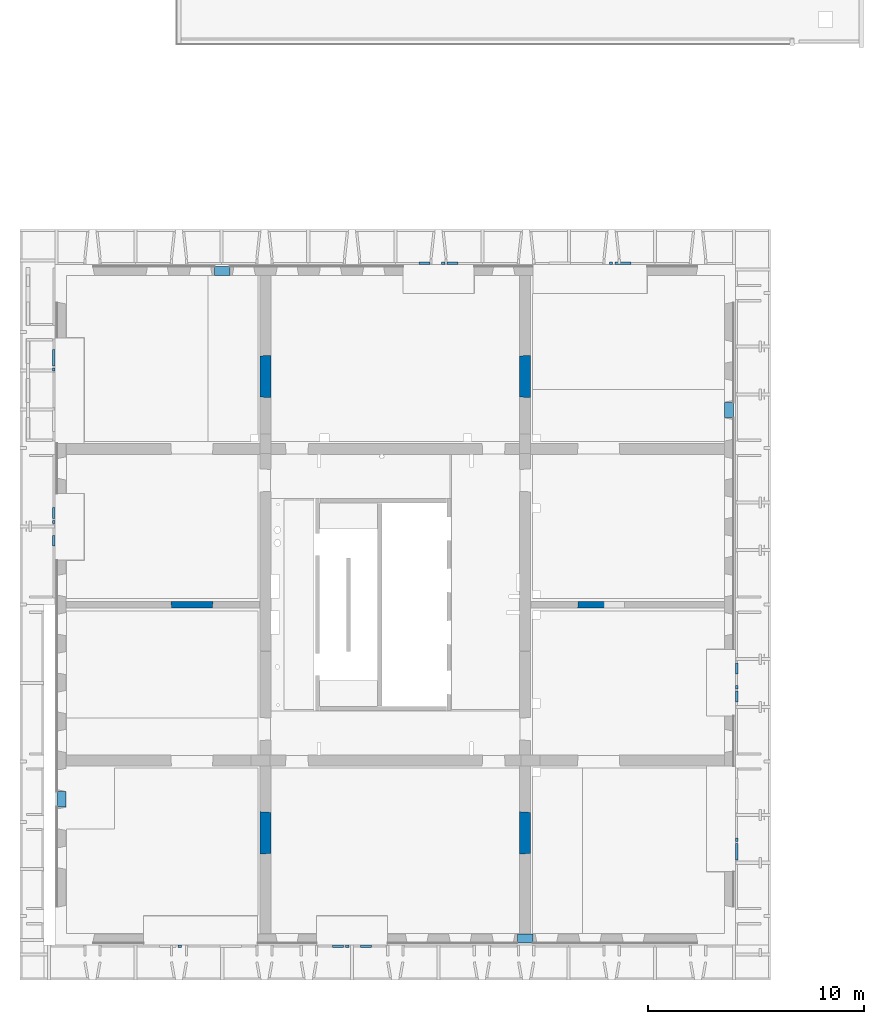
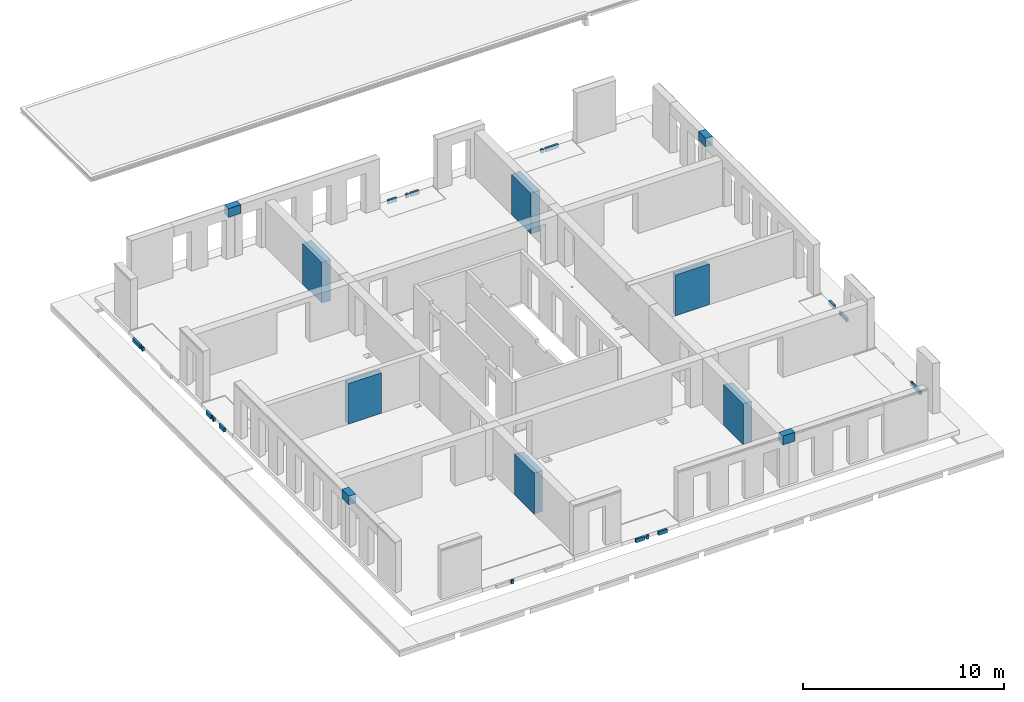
# One storey, part 24 of 27: 29 walls.
"""IFC2X3 building model written with IfcOpenShell, lengths in millimetres."""

from ifc_helpers import new_model, entity, si_unit, converted_unit, derived_unit, direction, frame, frame_2d, origin, place, context, subcontext, project, spatial, rectangle, extrude, faceted_brep, material, layer, layer_set, layer_usage, type_object, element, save


model = new_model("IFC2X3")

# Units and contexts
model_context = context("Model", 3, precision=0.01, world=origin(), true_north=direction((6.12303176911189e-17, 1.0)))
body_context = subcontext(model_context, "Body", "Model", "MODEL_VIEW")
ifc_project = project(units=[si_unit("LENGTHUNIT", "METRE", prefix="MILLI"), si_unit("AREAUNIT", "SQUARE_METRE"), si_unit("VOLUMEUNIT", "CUBIC_METRE"), converted_unit("PLANEANGLEUNIT", "DEGREE", entity("IfcRatioMeasure", 0.0174532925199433), si_unit("PLANEANGLEUNIT", "RADIAN"), dimensions=[0, 0, 0, 0, 0, 0, 0]), si_unit("MASSUNIT", "GRAM", prefix="KILO"), derived_unit("MASSDENSITYUNIT", [(si_unit("MASSUNIT", "GRAM", prefix="KILO"), 1), (si_unit("LENGTHUNIT", "METRE"), -3)]), si_unit("TIMEUNIT", "SECOND"), si_unit("FREQUENCYUNIT", "HERTZ"), si_unit("THERMODYNAMICTEMPERATUREUNIT", "DEGREE_CELSIUS"), derived_unit("THERMALTRANSMITTANCEUNIT", [(si_unit("MASSUNIT", "GRAM", prefix="KILO"), 1), (si_unit("THERMODYNAMICTEMPERATUREUNIT", "KELVIN"), -1), (si_unit("TIMEUNIT", "SECOND"), -3)]), derived_unit("VOLUMETRICFLOWRATEUNIT", [(si_unit("LENGTHUNIT", "METRE"), 3), (si_unit("TIMEUNIT", "SECOND"), -1)]), si_unit("ELECTRICCURRENTUNIT", "AMPERE"), si_unit("ELECTRICVOLTAGEUNIT", "VOLT"), si_unit("POWERUNIT", "WATT"), si_unit("FORCEUNIT", "NEWTON", prefix="KILO"), si_unit("ILLUMINANCEUNIT", "LUX"), si_unit("LUMINOUSFLUXUNIT", "LUMEN"), si_unit("LUMINOUSINTENSITYUNIT", "CANDELA"), derived_unit("USERDEFINED", [(si_unit("MASSUNIT", "GRAM", prefix="KILO"), -1), (si_unit("LENGTHUNIT", "METRE"), -2), (si_unit("TIMEUNIT", "SECOND"), 3), (si_unit("LUMINOUSFLUXUNIT", "LUMEN"), 1)]), derived_unit("LINEARVELOCITYUNIT", [(si_unit("LENGTHUNIT", "METRE"), 1), (si_unit("TIMEUNIT", "SECOND"), -1)]), si_unit("PRESSUREUNIT", "PASCAL"), derived_unit("USERDEFINED", [(si_unit("LENGTHUNIT", "METRE"), -2), (si_unit("MASSUNIT", "GRAM", prefix="KILO"), 1), (si_unit("TIMEUNIT", "SECOND"), -2)])], contexts=[model_context])

# Site, building, storey
site_placement = place(None, origin())
site = spatial("IfcSite", under=ifc_project, at=site_placement, Name="Default", CompositionType="ELEMENT")
building_placement = place(site_placement, origin())
building = spatial("IfcBuilding", under=site, at=building_placement, Name="niet gebruiken", CompositionType="ELEMENT")
storey_placement = place(building_placement, frame((0.0, 0.0, 18000.0)))
storey = spatial("IfcBuildingStorey", under=building, at=storey_placement, Name="05 vijfde verdieping", CompositionType="ELEMENT", Elevation=18000.0)

# Walls
ifc_material_1 = material(Name="NLRS_a_isolatie")
ifc_layer_1 = layer(ifc_material_1, 120.0)
ifc_layer_set_1 = layer_set([ifc_layer_1], Name="Basic Wall:NLRS_21.10_WA_isokorf d=120_gen")
ifc_layer_usage_1 = layer_usage(ifc_layer_set_1, "AXIS2", "NEGATIVE", 60.0)
wall_type_1 = type_object("IfcWallType", Name="Basic Wall:NLRS_21.10_WA_isokorf d=120_gen", PredefinedType="STANDARD", material=ifc_layer_set_1)
wall_1_placement = place(storey_placement, frame((144145.0, 33290.0, -360.0)))
element("IfcWallStandardCase", 1, at=wall_1_placement, inside=storey, type_object=wall_type_1, material=ifc_layer_usage_1, Name="Basic Wall:NLRS_21.10_WA_isokorf d=120_gen", ObjectType="Basic Wall:NLRS_21.10_WA_isokorf d=120_gen", context=body_context, shape_type="SweptSolid", body=[
    extrude(rectangle(XDim=500.000000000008, YDim=119.999999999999, at=frame_2d((250.000000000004, 8.45545855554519e-13), x_axis=(-1.0, 0.0))), origin(), (0.0, 0.0, 1.0), 220.000000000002),
])
ifc_layer_usage_2 = layer_usage(ifc_layer_set_1, "AXIS2", "NEGATIVE", 60.0)
wall_2_placement = place(storey_placement, frame((142855.0, 33290.0, -360.0)))
element("IfcWallStandardCase", 2, at=wall_2_placement, inside=storey, type_object=wall_type_1, material=ifc_layer_usage_2, Name="Basic Wall:NLRS_21.10_WA_isokorf d=120_gen", ObjectType="Basic Wall:NLRS_21.10_WA_isokorf d=120_gen", context=body_context, shape_type="SweptSolid", body=[
    extrude(rectangle(XDim=500.000000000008, YDim=119.999999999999, at=frame_2d((250.000000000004, 8.45545855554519e-13), x_axis=(-1.0, 0.0))), origin(), (0.0, 0.0, 1.0), 220.000000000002),
])
ifc_layer_usage_3 = layer_usage(ifc_layer_set_1, "AXIS2", "NEGATIVE", 60.0)
wall_3_placement = place(storey_placement, frame((125960.0, 28545.0, -360.0), z_axis=(0.0, 0.0, 1.0), x_axis=(0.0, 1.0, 0.0)))
element("IfcWallStandardCase", 3, at=wall_3_placement, inside=storey, type_object=wall_type_1, material=ifc_layer_usage_3, Name="Basic Wall:NLRS_21.10_WA_isokorf d=120_gen", ObjectType="Basic Wall:NLRS_21.10_WA_isokorf d=120_gen", context=body_context, shape_type="SweptSolid", body=[
    extrude(rectangle(XDim=750.000000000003, YDim=120.000000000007, at=frame_2d((374.999999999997, -8.06466005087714e-13), x_axis=(-1.0, 0.0))), origin(), (0.0, 0.0, 1.0), 220.000000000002),
])
ifc_layer_usage_4 = layer_usage(ifc_layer_set_1, "AXIS2", "NEGATIVE", 60.0)
wall_4_placement = place(storey_placement, frame((125960.0, 21495.0, -360.0), z_axis=(0.0, 0.0, 1.0), x_axis=(0.0, 1.0, 0.0)))
element("IfcWallStandardCase", 4, at=wall_4_placement, inside=storey, type_object=wall_type_1, material=ifc_layer_usage_4, Name="Basic Wall:NLRS_21.10_WA_isokorf d=120_gen", ObjectType="Basic Wall:NLRS_21.10_WA_isokorf d=120_gen", context=body_context, shape_type="SweptSolid", body=[
    extrude(rectangle(XDim=500.000000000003, YDim=120.000000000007, at=frame_2d((249.999999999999, -3.42836870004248e-12), x_axis=(-1.0, 0.0))), origin(), (0.0, 0.0, 1.0), 220.000000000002),
])
ifc_layer_usage_5 = layer_usage(ifc_layer_set_1, "AXIS2", "NEGATIVE", 60.0)
wall_5_placement = place(storey_placement, frame((125960.0, 20205.0, -360.0), z_axis=(0.0, 0.0, 1.0), x_axis=(0.0, 1.0, 0.0)))
element("IfcWallStandardCase", 5, at=wall_5_placement, inside=storey, type_object=wall_type_1, material=ifc_layer_usage_5, Name="Basic Wall:NLRS_21.10_WA_isokorf d=120_gen", ObjectType="Basic Wall:NLRS_21.10_WA_isokorf d=120_gen", context=body_context, shape_type="SweptSolid", body=[
    extrude(rectangle(XDim=499.999999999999, YDim=120.000000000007, at=frame_2d((249.999999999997, -3.42836870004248e-12), x_axis=(-1.0, 0.0))), origin(), (0.0, 0.0, 1.0), 220.000000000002),
])
ifc_layer_usage_6 = layer_usage(ifc_layer_set_1, "AXIS2", "NEGATIVE", 60.0)
wall_6_placement = place(storey_placement, frame((157540.0, 6455.00516263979, -360.0), z_axis=(0.0, 0.0, 1.0), x_axis=(0.0, -1.0, 0.0)))
element("IfcWallStandardCase", 6, at=wall_6_placement, inside=storey, type_object=wall_type_1, material=ifc_layer_usage_6, Name="Basic Wall:NLRS_21.10_WA_isokorf d=120_gen", ObjectType="Basic Wall:NLRS_21.10_WA_isokorf d=120_gen", context=body_context, shape_type="SweptSolid", body=[
    extrude(rectangle(XDim=750.000000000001, YDim=119.999999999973, at=frame_2d((375.0, 0.0), x_axis=(-1.0, 0.0))), origin(), (0.0, 0.0, 1.0), 220.000000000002),
])
ifc_layer_usage_7 = layer_usage(ifc_layer_set_1, "AXIS2", "NEGATIVE", 60.0)
wall_7_placement = place(storey_placement, frame((157540.0, 13505.0051626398, -360.0), z_axis=(0.0, 0.0, 1.0), x_axis=(0.0, -1.0, 0.0)))
element("IfcWallStandardCase", 7, at=wall_7_placement, inside=storey, type_object=wall_type_1, material=ifc_layer_usage_7, Name="Basic Wall:NLRS_21.10_WA_isokorf d=120_gen", ObjectType="Basic Wall:NLRS_21.10_WA_isokorf d=120_gen", context=body_context, shape_type="SweptSolid", body=[
    extrude(rectangle(XDim=500.000000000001, YDim=119.999999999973, at=frame_2d((250.000000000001, 0.0), x_axis=(-1.0, 0.0))), origin(), (0.0, 0.0, 1.0), 220.000000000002),
])
ifc_layer_usage_8 = layer_usage(ifc_layer_set_1, "AXIS2", "NEGATIVE", 60.0)
wall_8_placement = place(storey_placement, frame((157540.0, 14795.0051626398, -360.0), z_axis=(0.0, 0.0, 1.0), x_axis=(0.0, -1.0, 0.0)))
element("IfcWallStandardCase", 8, at=wall_8_placement, inside=storey, type_object=wall_type_1, material=ifc_layer_usage_8, Name="Basic Wall:NLRS_21.10_WA_isokorf d=120_gen", ObjectType="Basic Wall:NLRS_21.10_WA_isokorf d=120_gen", context=body_context, shape_type="SweptSolid", body=[
    extrude(rectangle(XDim=500.000000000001, YDim=119.999999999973, at=frame_2d((250.000000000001, 0.0), x_axis=(-1.0, 0.0))), origin(), (0.0, 0.0, 1.0), 220.000000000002),
])
ifc_layer_usage_9 = layer_usage(ifc_layer_set_1, "AXIS2", "NEGATIVE", 60.0)
wall_9_placement = place(storey_placement, frame((139355.0, 1710.0, -360.0), z_axis=(0.0, 0.0, 1.0), x_axis=(-1.0, 0.0, 0.0)))
element("IfcWallStandardCase", 9, at=wall_9_placement, inside=storey, type_object=wall_type_1, material=ifc_layer_usage_9, Name="Basic Wall:NLRS_21.10_WA_isokorf d=120_gen", ObjectType="Basic Wall:NLRS_21.10_WA_isokorf d=120_gen", context=body_context, shape_type="SweptSolid", body=[
    extrude(rectangle(XDim=499.99999999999, YDim=120.0, at=frame_2d((249.999999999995, -8.17124146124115e-14), x_axis=(-1.0, 0.0))), origin(), (0.0, 0.0, 1.0), 220.000000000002),
])
ifc_layer_usage_10 = layer_usage(ifc_layer_set_1, "AXIS2", "NEGATIVE", 60.0)
wall_10_placement = place(storey_placement, frame((140645.0, 1710.0, -360.0), z_axis=(0.0, 0.0, 1.0), x_axis=(-1.0, 0.0, 0.0)))
element("IfcWallStandardCase", 10, at=wall_10_placement, inside=storey, type_object=wall_type_1, material=ifc_layer_usage_10, Name="Basic Wall:NLRS_21.10_WA_isokorf d=120_gen", ObjectType="Basic Wall:NLRS_21.10_WA_isokorf d=120_gen", context=body_context, shape_type="SweptSolid", body=[
    extrude(rectangle(XDim=499.99999999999, YDim=120.0, at=frame_2d((249.999999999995, -8.17124146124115e-14), x_axis=(-1.0, 0.0))), origin(), (0.0, 0.0, 1.0), 220.000000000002),
])
ifc_layer_usage_11 = layer_usage(ifc_layer_set_1, "AXIS2", "NEGATIVE", 60.0)
wall_11_placement = place(storey_placement, frame((151895.0, 33290.0, -360.0)))
element("IfcWallStandardCase", 11, at=wall_11_placement, inside=storey, type_object=wall_type_1, material=ifc_layer_usage_11, Name="Basic Wall:NLRS_21.10_WA_isokorf d=120_gen", ObjectType="Basic Wall:NLRS_21.10_WA_isokorf d=120_gen", context=body_context, shape_type="SweptSolid", body=[
    extrude(rectangle(XDim=749.999999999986, YDim=119.999999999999, at=frame_2d((374.999999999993, 1.13686837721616e-12), x_axis=(-1.0, 0.0))), origin(), (0.0, 0.0, 1.0), 220.000000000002),
])
ifc_layer_usage_12 = layer_usage(ifc_layer_set_1, "AXIS2", "NEGATIVE", 60.0)
wall_12_placement = place(storey_placement, frame((131855.003540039, 1710.0, -360.0), z_axis=(0.0, 0.0, 1.0), x_axis=(-1.0, 0.0, 0.0)))
element("IfcWallStandardCase", 12, at=wall_12_placement, inside=storey, type_object=wall_type_1, material=ifc_layer_usage_12, Name="Basic Wall:NLRS_21.10_WA_isokorf d=120_gen", ObjectType="Basic Wall:NLRS_21.10_WA_isokorf d=120_gen", context=body_context, shape_type="SweptSolid", body=[
    extrude(rectangle(XDim=150.000000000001, YDim=120.0, at=frame_2d((75.0000000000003, -5.6843418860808e-14), x_axis=(-1.0, 0.0))), origin(), (0.0, 0.0, 1.0), 220.000000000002),
])
ifc_layer_usage_13 = layer_usage(ifc_layer_set_1, "AXIS2", "NEGATIVE", 60.0)
wall_13_placement = place(storey_placement, frame((151644.996459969, 33290.0, -360.0)))
element("IfcWallStandardCase", 13, at=wall_13_placement, inside=storey, type_object=wall_type_1, material=ifc_layer_usage_13, Name="Basic Wall:NLRS_21.10_WA_isokorf d=120_gen", ObjectType="Basic Wall:NLRS_21.10_WA_isokorf d=120_gen", context=body_context, shape_type="SweptSolid", body=[
    extrude(rectangle(XDim=150.000000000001, YDim=119.999999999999, at=frame_2d((75.0000000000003, 0.0), x_axis=(-1.0, 0.0))), origin(), (0.0, 0.0, 1.0), 220.000000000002),
])
ifc_layer_usage_14 = layer_usage(ifc_layer_set_1, "AXIS2", "NEGATIVE", 60.0)
wall_14_placement = place(storey_placement, frame((139605.0, 1710.0, -360.0), z_axis=(0.0, 0.0, 1.0), x_axis=(-1.0, 0.0, 0.0)))
element("IfcWallStandardCase", 14, at=wall_14_placement, inside=storey, type_object=wall_type_1, material=ifc_layer_usage_14, Name="Basic Wall:NLRS_21.10_WA_isokorf d=120_gen", ObjectType="Basic Wall:NLRS_21.10_WA_isokorf d=120_gen", context=body_context, shape_type="SweptSolid", body=[
    extrude(rectangle(XDim=150.000000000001, YDim=120.0, at=frame_2d((75.0000000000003, -6.75015598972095e-14), x_axis=(-1.0, 0.0))), origin(), (0.0, 0.0, 1.0), 220.000000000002),
])
ifc_layer_usage_15 = layer_usage(ifc_layer_set_1, "AXIS2", "NEGATIVE", 60.0)
wall_15_placement = place(storey_placement, frame((143895.0, 33290.0, -360.0)))
element("IfcWallStandardCase", 15, at=wall_15_placement, inside=storey, type_object=wall_type_1, material=ifc_layer_usage_15, Name="Basic Wall:NLRS_21.10_WA_isokorf d=120_gen", ObjectType="Basic Wall:NLRS_21.10_WA_isokorf d=120_gen", context=body_context, shape_type="SweptSolid", body=[
    extrude(rectangle(XDim=149.999999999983, YDim=119.999999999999, at=frame_2d((74.9999999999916, 2.55795384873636e-13), x_axis=(-1.0, 0.0))), origin(), (0.0, 0.0, 1.0), 220.000000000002),
])
ifc_layer_usage_16 = layer_usage(ifc_layer_set_1, "AXIS2", "NEGATIVE", 60.0)
wall_16_placement = place(storey_placement, frame((125960.0, 28295.0, -360.0), z_axis=(0.0, 0.0, 1.0), x_axis=(0.0, 1.0, 0.0)))
element("IfcWallStandardCase", 16, at=wall_16_placement, inside=storey, type_object=wall_type_1, material=ifc_layer_usage_16, Name="Basic Wall:NLRS_21.10_WA_isokorf d=120_gen", ObjectType="Basic Wall:NLRS_21.10_WA_isokorf d=120_gen", context=body_context, shape_type="SweptSolid", body=[
    extrude(rectangle(XDim=150.000000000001, YDim=120.000000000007, at=frame_2d((74.9999999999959, -7.0912165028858e-12), x_axis=(-1.0, 0.0))), origin(), (0.0, 0.0, 1.0), 220.000000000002),
])
ifc_layer_usage_17 = layer_usage(ifc_layer_set_1, "AXIS2", "NEGATIVE", 60.0)
wall_17_placement = place(storey_placement, frame((125960.0, 21245.0, -360.0), z_axis=(0.0, 0.0, 1.0), x_axis=(0.0, 1.0, 0.0)))
element("IfcWallStandardCase", 17, at=wall_17_placement, inside=storey, type_object=wall_type_1, material=ifc_layer_usage_17, Name="Basic Wall:NLRS_21.10_WA_isokorf d=120_gen", ObjectType="Basic Wall:NLRS_21.10_WA_isokorf d=120_gen", context=body_context, shape_type="SweptSolid", body=[
    extrude(rectangle(XDim=150.000000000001, YDim=120.000000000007, at=frame_2d((74.9999999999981, 1.57385215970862e-12), x_axis=(-1.0, 0.0))), origin(), (0.0, 0.0, 1.0), 220.000000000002),
])
ifc_layer_usage_18 = layer_usage(ifc_layer_set_1, "AXIS2", "NEGATIVE", 60.0)
wall_18_placement = place(storey_placement, frame((157540.0, 13755.0051626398, -360.0), z_axis=(0.0, 0.0, 1.0), x_axis=(0.0, -1.0, 0.0)))
element("IfcWallStandardCase", 18, at=wall_18_placement, inside=storey, type_object=wall_type_1, material=ifc_layer_usage_18, Name="Basic Wall:NLRS_21.10_WA_isokorf d=120_gen", ObjectType="Basic Wall:NLRS_21.10_WA_isokorf d=120_gen", context=body_context, shape_type="SweptSolid", body=[
    extrude(rectangle(XDim=150.000000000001, YDim=119.999999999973, at=frame_2d((75.0000000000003, 0.0), x_axis=(-1.0, 0.0))), origin(), (0.0, 0.0, 1.0), 220.000000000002),
])
ifc_layer_usage_19 = layer_usage(ifc_layer_set_1, "AXIS2", "NEGATIVE", 60.0)
wall_19_placement = place(storey_placement, frame((157540.0, 6705.00516263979, -360.0), z_axis=(0.0, 0.0, 1.0), x_axis=(0.0, -1.0, 0.0)))
element("IfcWallStandardCase", 19, at=wall_19_placement, inside=storey, type_object=wall_type_1, material=ifc_layer_usage_19, Name="Basic Wall:NLRS_21.10_WA_isokorf d=120_gen", ObjectType="Basic Wall:NLRS_21.10_WA_isokorf d=120_gen", context=body_context, shape_type="SweptSolid", body=[
    extrude(rectangle(XDim=150.000000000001, YDim=119.999999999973, at=frame_2d((75.0000000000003, 0.0), x_axis=(-1.0, 0.0))), origin(), (0.0, 0.0, 1.0), 220.000000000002),
])
ifc_material_2 = material(Name="NLRS_f2_beton prefab dichtstorten")
wall_type_2 = type_object("IfcWallType", Name="Parametric Wall:NLRS_22.21_WA_beton prefab d=500 1900x2460_gen", PredefinedType="NOTDEFINED", material=ifc_material_2)
wall_20_placement = place(storey_placement, frame((135500.0, 5970.0, -60.0), z_axis=(0.0, 0.0, 1.0), x_axis=(0.0, 1.0, 0.0)))
element("IfcWall", 20, at=wall_20_placement, inside=storey, type_object=wall_type_2, material=ifc_material_2, Name="Parametric Wall:NLRS_22.21_WA_beton prefab d=500 1900x2460_gen", ObjectType="Parametric Wall:NLRS_22.21_WA_beton prefab d=500 1900x2460_gen", context=body_context, shape_type="Brep", body=[
    faceted_brep([(1960.0, 0.0, 2490.0), (1960.0, 0.0, 0.0), (0.0, 0.0, 0.0), (0.0, 0.0, 2490.0), (1930.0, -500.0, 2460.0), (30.0, -500.0, 2460.0), (30.0, -500.0, 0.0), (1930.0, -500.0, 0.0)], [[[0, 1, 2, 3]], [[4, 5, 6, 7]], [[4, 7, 1, 0]], [[6, 5, 3, 2]], [[7, 6, 2, 1]], [[5, 4, 0, 3]]]),
])
for number, where, z_axis, x_axis in (
    (21, (147500.0, 27070.0, -60.0), (0.0, 0.0, 1.0), (0.0, 1.0, 0.0)),
    (22, (135500.0, 27070.0, -60.0), (0.0, 0.0, 1.0), (0.0, 1.0, 0.0)),
):
    element("IfcWall", number, at=place(storey_placement, frame(where, z_axis=z_axis, x_axis=x_axis)), inside=storey, type_object=wall_type_2, material=ifc_material_2, Name="Parametric Wall:NLRS_22.21_WA_beton prefab d=500 1900x2460_gen", ObjectType="Parametric Wall:NLRS_22.21_WA_beton prefab d=500 1900x2460_gen", context=body_context, shape_type="Brep", body=[
        faceted_brep([(0.0, -500.0, 2490.0), (0.0, -500.0, 0.0), (1960.0, -500.0, 0.0), (1960.0, -500.0, 2490.0), (30.0, 0.0, 2460.0), (1930.0, 0.0, 2460.0), (1930.0, 0.0, 0.0), (30.0, 0.0, 0.0)], [[[0, 1, 2, 3]], [[4, 5, 6, 7]], [[4, 7, 1, 0]], [[6, 5, 3, 2]], [[7, 6, 2, 1]], [[5, 4, 0, 3]]]),
    ])
wall_21_placement = place(storey_placement, frame((147500.0, 5970.0, -60.0), z_axis=(0.0, 0.0, 1.0), x_axis=(0.0, 1.0, 0.0)))
element("IfcWall", 23, at=wall_21_placement, inside=storey, type_object=wall_type_2, material=ifc_material_2, Name="Parametric Wall:NLRS_22.21_WA_beton prefab d=500 1900x2460_gen", ObjectType="Parametric Wall:NLRS_22.21_WA_beton prefab d=500 1900x2460_gen", context=body_context, shape_type="Brep", body=[
    faceted_brep([(1960.0, 0.0, 2490.0), (1960.0, 0.0, 0.0), (0.0, 0.0, 0.0), (0.0, 0.0, 2490.0), (1930.0, -500.0, 2460.0), (30.0, -500.0, 2460.0), (30.0, -500.0, 0.0), (1930.0, -500.0, 0.0)], [[[0, 1, 2, 3]], [[4, 5, 6, 7]], [[4, 7, 1, 0]], [[6, 5, 3, 2]], [[7, 6, 2, 1]], [[5, 4, 0, 3]]]),
])
wall_22_placement = place(storey_placement, frame((131382.0, 17350.0, -60.0)))
element("IfcWall", 24, at=wall_22_placement, inside=storey, type_object=wall_type_2, material=ifc_material_2, Name="Parametric Wall:NLRS_22.21_WA_beton prefab d=500 1900x2460_gen", ObjectType="Parametric Wall:NLRS_22.21_WA_beton prefab d=500 1900x2460_gen", context=body_context, shape_type="Brep", body=[
    faceted_brep([(1936.0, 300.0, 2478.0), (1936.0, 300.0, 0.0), (0.0, 300.0, 0.0), (0.0, 300.0, 2478.0), (1918.0, 0.0, 2460.0), (18.0, 0.0, 2460.0), (18.0, 0.0, 0.0), (1918.0, 0.0, 0.0)], [[[0, 1, 2, 3]], [[4, 5, 6, 7]], [[4, 7, 1, 0]], [[6, 5, 3, 2]], [[7, 6, 2, 1]], [[5, 4, 0, 3]]]),
])
wall_23_placement = place(storey_placement, frame((150182.0, 17350.0, -60.0)))
element("IfcWall", 25, at=wall_23_placement, inside=storey, type_object=wall_type_2, material=ifc_material_2, Name="Parametric Wall:NLRS_22.21_WA_beton prefab d=500 1900x2460_gen", ObjectType="Parametric Wall:NLRS_22.21_WA_beton prefab d=500 1900x2460_gen", context=body_context, shape_type="Brep", body=[
    faceted_brep([(0.0, 0.0, 2478.0), (0.0, 0.0, 0.0), (1936.0, 0.0, 0.0), (1936.0, 0.0, 2478.0), (18.0, 300.0, 2460.0), (1918.0, 300.0, 2460.0), (1918.0, 300.0, 0.0), (18.0, 300.0, 0.0)], [[[0, 1, 2, 3]], [[4, 5, 6, 7]], [[4, 7, 1, 0]], [[6, 5, 3, 2]], [[7, 6, 2, 1]], [[5, 4, 0, 3]]]),
])
ifc_material_3 = material(Name="NLRS_f2_beton ihwg")
ifc_layer_2 = layer(ifc_material_3, 400.0)
ifc_layer_set_2 = layer_set([ifc_layer_2], Name="Basic Wall:NLRS_21.21_WA_beton ihwg d=400_gen")
ifc_layer_usage_20 = layer_usage(ifc_layer_set_2, "AXIS2", "NEGATIVE", 200.0)
wall_type_3 = type_object("IfcWallType", Name="Basic Wall:NLRS_21.21_WA_beton ihwg d=400_gen", PredefinedType="STANDARD", material=ifc_layer_set_2)
wall_24_placement = place(storey_placement, frame((133395.0, 32930.0, 2455.0)))
element("IfcWallStandardCase", 26, at=wall_24_placement, inside=storey, type_object=wall_type_3, material=ifc_layer_usage_20, Name="Basic Wall:NLRS_21.21_WA_beton ihwg d=400_gen", ObjectType="Basic Wall:NLRS_21.21_WA_beton ihwg d=400_gen", context=body_context, shape_type="SweptSolid", body=[
    extrude(rectangle(XDim=710.000000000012, YDim=399.999999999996, at=frame_2d((355.000000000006, 0.0), x_axis=(-1.0, 0.0))), origin(), (0.0, 0.0, 1.0), 534.999999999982),
])
ifc_layer_usage_21 = layer_usage(ifc_layer_set_2, "AXIS2", "NEGATIVE", 200.0)
wall_25_placement = place(storey_placement, frame((148105.0, 2070.0, 2455.0), z_axis=(0.0, 0.0, 1.0), x_axis=(-1.0, 0.0, 0.0)))
element("IfcWallStandardCase", 27, at=wall_25_placement, inside=storey, type_object=wall_type_3, material=ifc_layer_usage_21, Name="Basic Wall:NLRS_21.21_WA_beton ihwg d=400_gen", ObjectType="Basic Wall:NLRS_21.21_WA_beton ihwg d=400_gen", context=body_context, shape_type="SweptSolid", body=[
    extrude(rectangle(XDim=710.000000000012, YDim=400.0, at=frame_2d((355.000000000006, 0.0), x_axis=(-1.0, 0.0))), origin(), (0.0, 0.0, 1.0), 534.999999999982),
])
ifc_layer_usage_22 = layer_usage(ifc_layer_set_2, "AXIS2", "NEGATIVE", 200.0)
wall_26_placement = place(storey_placement, frame((126320.0, 8155.0, 2455.0), z_axis=(0.0, 0.0, 1.0), x_axis=(0.0, 1.0, 0.0)))
element("IfcWallStandardCase", 28, at=wall_26_placement, inside=storey, type_object=wall_type_3, material=ifc_layer_usage_22, Name="Basic Wall:NLRS_21.21_WA_beton ihwg d=400_gen", ObjectType="Basic Wall:NLRS_21.21_WA_beton ihwg d=400_gen", context=body_context, shape_type="SweptSolid", body=[
    extrude(rectangle(XDim=700.000000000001, YDim=400.000000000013, at=frame_2d((350.000000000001, 0.0), x_axis=(-1.0, 0.0))), origin(), (0.0, 0.0, 1.0), 534.999999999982),
])
ifc_layer_usage_23 = layer_usage(ifc_layer_set_2, "AXIS2", "NEGATIVE", 200.0)
wall_27_placement = place(storey_placement, frame((157180.0, 26845.0, 2455.0), z_axis=(0.0, 0.0, 1.0), x_axis=(0.0, -1.0, 0.0)))
element("IfcWallStandardCase", 29, at=wall_27_placement, inside=storey, type_object=wall_type_3, material=ifc_layer_usage_23, Name="Basic Wall:NLRS_21.21_WA_beton ihwg d=400_gen", ObjectType="Basic Wall:NLRS_21.21_WA_beton ihwg d=400_gen", context=body_context, shape_type="SweptSolid", body=[
    extrude(rectangle(XDim=699.999999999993, YDim=399.999999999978, at=frame_2d((349.999999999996, 0.0), x_axis=(-1.0, 0.0))), origin(), (0.0, 0.0, 1.0), 534.999999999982),
])

save(model, "model.ifc")
